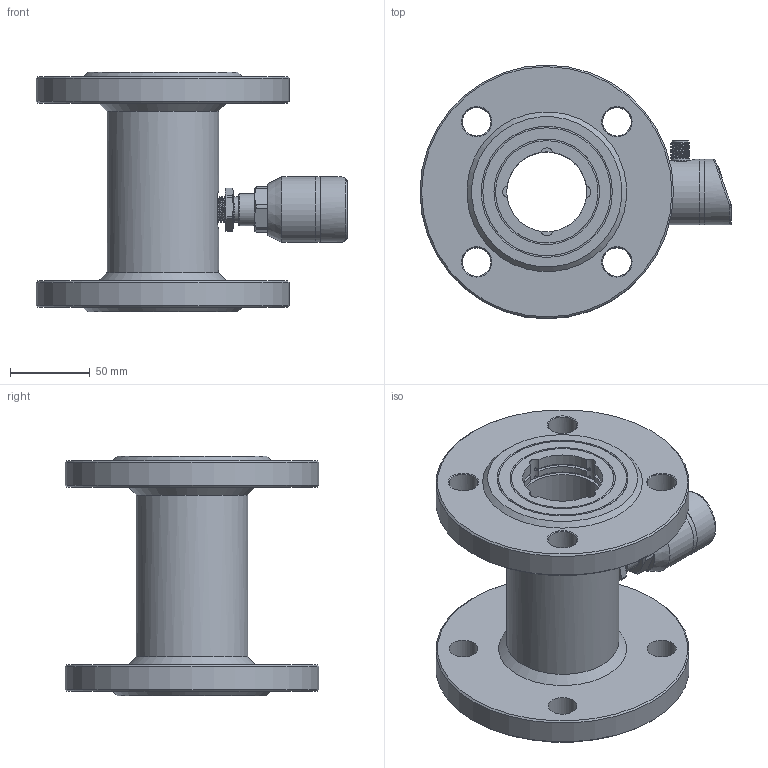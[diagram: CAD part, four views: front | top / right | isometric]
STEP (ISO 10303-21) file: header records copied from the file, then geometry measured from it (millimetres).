
FILE_DESCRIPTION( (''), '2;1');
FILE_NAME( 'QTKA_DN50_flange_2.step', '2024-01-11T13:46:54+08:00', (''), (''), '', '', '');
FILE_SCHEMA (('AUTOMOTIVE_DESIGN { 1 0 10303 214 3 1 1 1 }'));
Length unit declared in the file: millimetre
Products named in the file (1): QTKA DN50_flange_2
Bounding box: 195.05 x 158.5 x 150 mm (x, y, z)
Volume: 825990 mm3; surface area: 161801.1 mm2
Topology: 5 solids, 7 shells, 525 faces, 1293 edges, 826 vertices
Faces by surface type: cylinder 188, plane 181, cone 63, bspline 44, torus 43, sphere 6
Full cylindrical faces by diameter (mm): 1 x5, 2.7 x4, 8.4 x1, 9.7 x1, 9.8 x1, 10.1 x1, 11.6 x1, 12 x1, 15.9 x1, 16.5 x1, 18 x8, 20 x1, 23 x3, 26 x4, 26.1 x1, 37 x1, 41 x3, 50 x1, 70 x1, 158.5 x2
Entity records: 32436 total; most frequent: CARTESIAN_POINT 19124, DIRECTION 2478, ORIENTED_EDGE 2334, EDGE_CURVE 1167, AXIS2_PLACEMENT_3D 1019, VERTEX_POINT 782, EDGE_LOOP 673, CIRCLE 532
